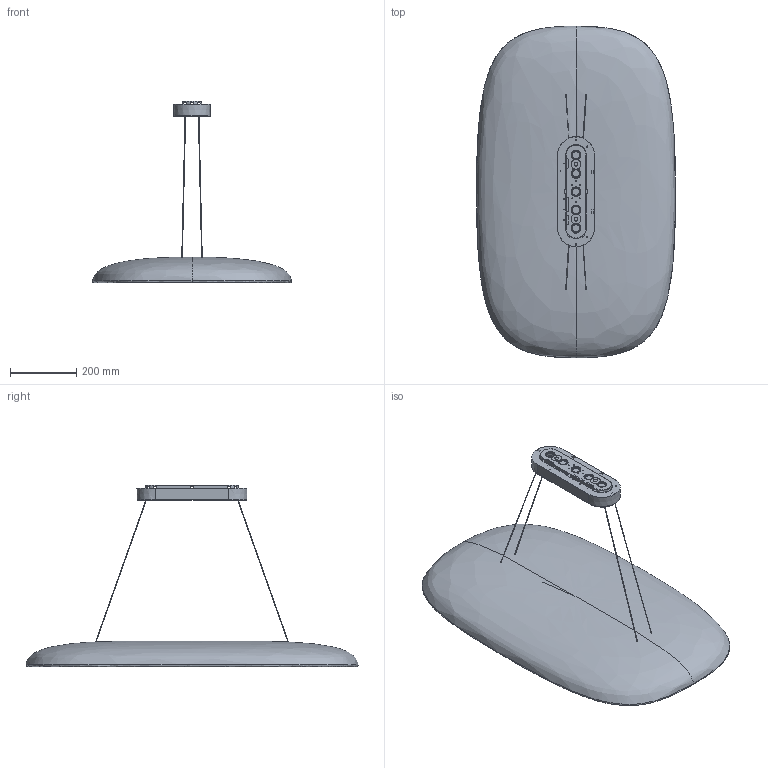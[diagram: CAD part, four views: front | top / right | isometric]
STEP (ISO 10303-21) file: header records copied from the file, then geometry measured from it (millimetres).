
FILE_DESCRIPTION((''),'2;1');
FILE_NAME('SOSPESO_SW0001','2025-05-14T08:37:27',('elena.baldelli'),(''),'CREO PARAMETRIC BY PTC INC, 2020354','CREO PARAMETRIC BY PTC INC, 2020354','');
FILE_SCHEMA(('CONFIG_CONTROL_DESIGN'));
Products named in the file (1): SOSPESO_SW0001
Bounding box: 599.58 x 999.76 x 546.46 mm (x, y, z)
Surface area: 1715285.6 mm2 (no closed solid volume)
Topology: 0 solids, 13 shells, 85 faces, 770 edges, 685 vertices
Faces by surface type: bspline 26, torus 24, plane 17, cylinder 10, extrusion 4, cone 4
Entity records: 85572 total; most frequent: CARTESIAN_POINT 80549, ORIENTED_EDGE 930, DIRECTION 862, EDGE_CURVE 768, VERTEX_POINT 685, AXIS2_PLACEMENT_3D 313, B_SPLINE_CURVE_WITH_KNOTS 282, CIRCLE 258
